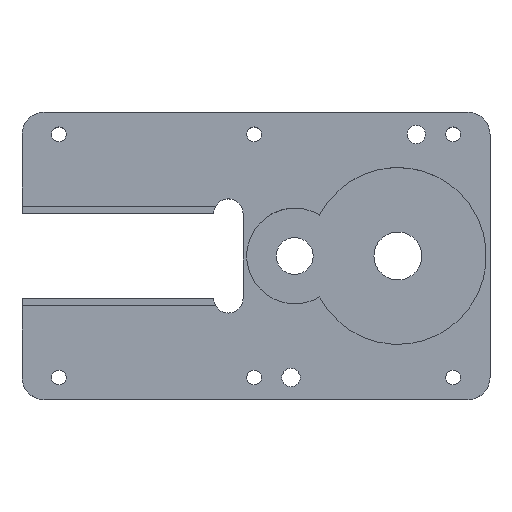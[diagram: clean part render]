
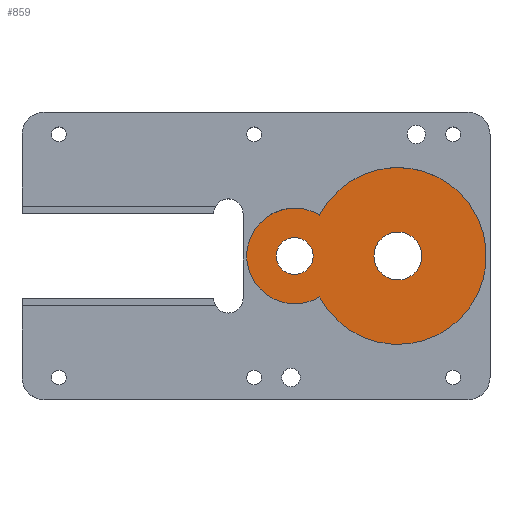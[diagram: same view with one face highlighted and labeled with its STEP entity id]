
A CAD part, top view. The second image highlights one B-rep face of the part: STEP entity #859.
In plain terms, the highlighted planar face has unit normal (0, 0, 1).
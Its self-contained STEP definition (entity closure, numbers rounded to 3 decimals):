
#760=CARTESIAN_POINT('',(17.232,11.121,29.));
#761=VERTEX_POINT('',#760);
#768=CARTESIAN_POINT('',(17.232,-11.121,29.));
#769=VERTEX_POINT('',#768);
#770=CARTESIAN_POINT('',(38.5,0.,29.));
#771=DIRECTION('',(-0.886,0.463,0.));
#772=DIRECTION('',(0.,0.,-1.));
#773=AXIS2_PLACEMENT_3D('',#770,#772,#771);
#774=CIRCLE('',#773,24.);
#775=EDGE_CURVE('',#761,#769,#774,.T.);
#799=CARTESIAN_POINT('',(10.5,0.,29.));
#800=DIRECTION('',(0.518,-0.855,0.));
#801=DIRECTION('',(0.,0.,-1.));
#802=AXIS2_PLACEMENT_3D('',#799,#801,#800);
#803=CIRCLE('',#802,13.);
#804=EDGE_CURVE('',#769,#761,#803,.T.);
#810=CARTESIAN_POINT('',(34.951,-4.324,29.));
#811=DIRECTION('',(1.,0.,0.));
#812=DIRECTION('',(0.,0.,1.));
#813=AXIS2_PLACEMENT_3D('',#810,#812,#811);
#814=PLANE('',#813);
#815=ORIENTED_EDGE('',*,*,#804,.F.);
#816=ORIENTED_EDGE('',*,*,#775,.F.);
#817=EDGE_LOOP('',(#815,#816));
#818=FACE_OUTER_BOUND('',#817,.T.);
#819=CARTESIAN_POINT('',(32.,0.,29.));
#820=VERTEX_POINT('',#819);
#821=CARTESIAN_POINT('',(45.,0.,29.));
#822=VERTEX_POINT('',#821);
#823=CARTESIAN_POINT('',(38.5,0.,29.));
#824=DIRECTION('',(-1.,0.,0.));
#825=DIRECTION('',(0.,0.,-1.));
#826=AXIS2_PLACEMENT_3D('',#823,#825,#824);
#827=CIRCLE('',#826,6.5);
#828=EDGE_CURVE('',#820,#822,#827,.T.);
#829=ORIENTED_EDGE('E73',*,*,#828,.T.);
#830=CARTESIAN_POINT('',(38.5,0.,29.));
#831=DIRECTION('',(1.,0.,0.));
#832=DIRECTION('',(0.,0.,-1.));
#833=AXIS2_PLACEMENT_3D('',#830,#832,#831);
#834=CIRCLE('',#833,6.5);
#835=EDGE_CURVE('',#822,#820,#834,.T.);
#836=ORIENTED_EDGE('E114',*,*,#835,.T.);
#837=EDGE_LOOP('',(#829,#836));
#838=FACE_BOUND('',#837,.T.);
#839=CARTESIAN_POINT('',(5.5,0.,29.));
#840=VERTEX_POINT('',#839);
#841=CARTESIAN_POINT('',(15.5,0.,29.));
#842=VERTEX_POINT('',#841);
#843=CARTESIAN_POINT('',(10.5,0.,29.));
#844=DIRECTION('',(-1.,0.,0.));
#845=DIRECTION('',(0.,0.,-1.));
#846=AXIS2_PLACEMENT_3D('',#843,#845,#844);
#847=CIRCLE('',#846,5.);
#848=EDGE_CURVE('',#840,#842,#847,.T.);
#849=ORIENTED_EDGE('E74',*,*,#848,.T.);
#850=CARTESIAN_POINT('',(10.5,0.,29.));
#851=DIRECTION('',(1.,0.,0.));
#852=DIRECTION('',(0.,0.,-1.));
#853=AXIS2_PLACEMENT_3D('',#850,#852,#851);
#854=CIRCLE('',#853,5.);
#855=EDGE_CURVE('',#842,#840,#854,.T.);
#856=ORIENTED_EDGE('E113',*,*,#855,.T.);
#857=EDGE_LOOP('',(#849,#856));
#858=FACE_BOUND('',#857,.T.);
#859=ADVANCED_FACE('F25',(#818,#838,#858),#814,.T.);
